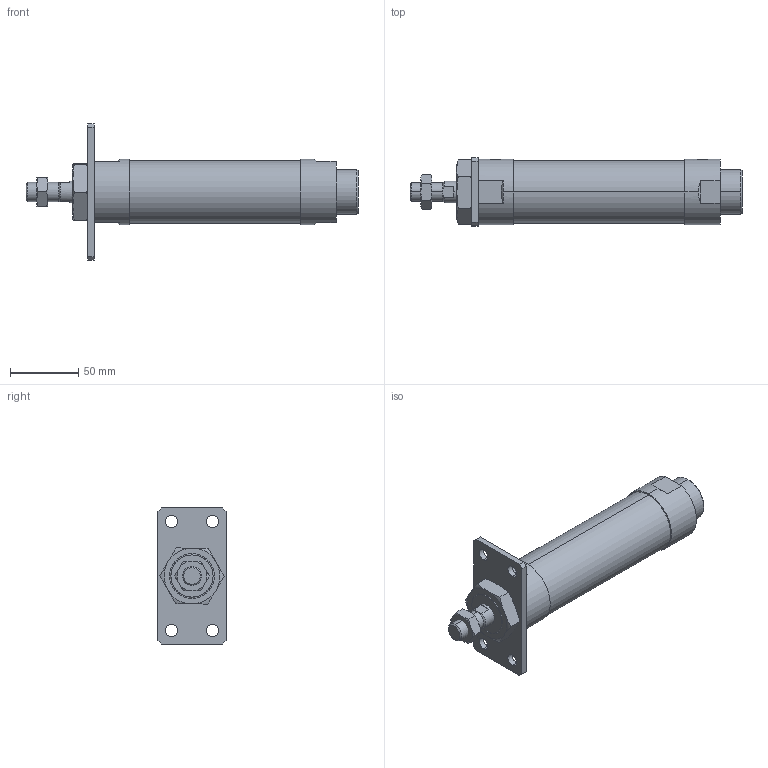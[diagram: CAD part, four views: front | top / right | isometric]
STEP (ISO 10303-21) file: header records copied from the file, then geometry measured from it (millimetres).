
FILE_DESCRIPTION (( 'STEP AP203' ), '1' );
FILE_NAME ('J#2-40-75-A.STEP', '2016-03-08T07:55:17', ( '' ), ( '' ), 'SwSTEP 2.0', 'SolidWorks 2014', '' );
FILE_SCHEMA (( 'CONFIG_CONTROL_DESIGN' ));
Length unit declared in the file: millimetre
Products named in the file (5): J#2-40-A; J#2-40-75-A; J#2-40-75
Assembly tree (4 placements, depth 2):
  J#2-40-75-A
    J#2-40-75
    (unnamed)
    (unnamed)
    J#2-40-A
Bounding box: 244 x 50 x 100 mm (x, y, z)
Volume: 359911.7 mm3; surface area: 51329.2 mm2
Topology: 4 solids, 4 shells, 114 faces, 264 edges, 161 vertices
Faces by surface type: plane 43, cylinder 32, torus 24, cone 15
Entity records: 4198 total; most frequent: CARTESIAN_POINT 1133, DIRECTION 537, ORIENTED_EDGE 520, EDGE_CURVE 260, AXIS2_PLACEMENT_3D 219, VERTEX_POINT 161, EDGE_LOOP 135, ADVANCED_FACE 114
